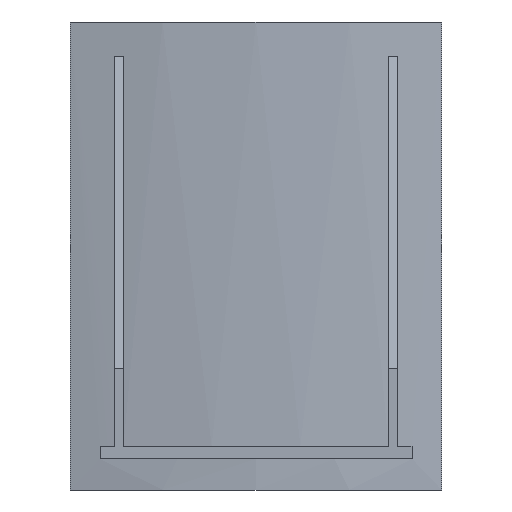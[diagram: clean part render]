
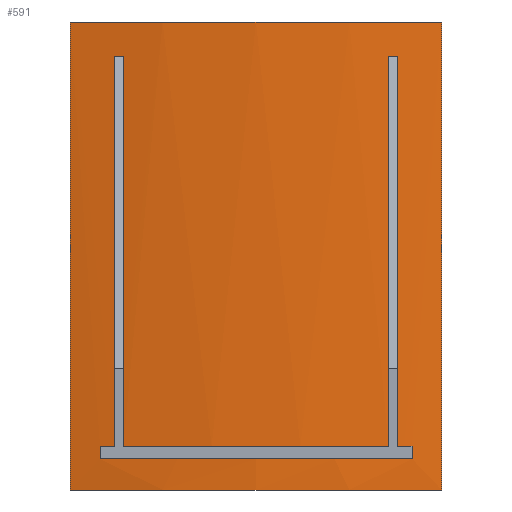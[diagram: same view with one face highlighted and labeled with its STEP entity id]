
A CAD part, left-side view. The second image highlights one B-rep face of the part: STEP entity #591.
In plain terms, the highlighted cylindrical face has radius 1143 mm (diameter 2286 mm), a partial arc.
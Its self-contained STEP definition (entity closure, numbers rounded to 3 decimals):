
#19=FACE_BOUND('',#105,.T.);
#28=CIRCLE('',#643,1143.);
#29=CIRCLE('',#645,1143.);
#30=CIRCLE('',#647,1143.);
#31=CIRCLE('',#651,1143.);
#34=CIRCLE('',#657,1143.);
#35=CIRCLE('',#658,1143.);
#41=CYLINDRICAL_SURFACE('',#656,1143.);
#69=FACE_OUTER_BOUND('',#104,.T.);
#104=EDGE_LOOP('',(#513,#514,#515,#516));
#105=EDGE_LOOP('',(#517,#518,#519,#520,#521,#522,#523,#524,#525,#526));
#162=LINE('',#955,#228);
#164=LINE('',#959,#230);
#169=LINE('',#976,#235);
#170=LINE('',#982,#236);
#171=LINE('',#983,#237);
#172=LINE('',#984,#238);
#228=VECTOR('',#785,10.);
#230=VECTOR('',#789,10.);
#235=VECTOR('',#806,10.);
#236=VECTOR('',#813,10.);
#237=VECTOR('',#814,10.);
#238=VECTOR('',#815,10.);
#269=VERTEX_POINT('',#902);
#270=VERTEX_POINT('',#904);
#277=VERTEX_POINT('',#923);
#278=VERTEX_POINT('',#925);
#281=VERTEX_POINT('',#943);
#282=VERTEX_POINT('',#947);
#283=VERTEX_POINT('',#953);
#284=VERTEX_POINT('',#957);
#289=VERTEX_POINT('',#972);
#290=VERTEX_POINT('',#974);
#291=VERTEX_POINT('',#978);
#292=VERTEX_POINT('',#980);
#351=EDGE_CURVE('',#281,#269,#28,.T.);
#354=EDGE_CURVE('',#277,#282,#29,.T.);
#355=EDGE_CURVE('',#269,#277,#30,.T.);
#357=EDGE_CURVE('',#283,#281,#162,.T.);
#359=EDGE_CURVE('',#282,#284,#164,.T.);
#360=EDGE_CURVE('',#284,#283,#31,.T.);
#367=EDGE_CURVE('',#289,#290,#169,.T.);
#368=EDGE_CURVE('',#291,#289,#34,.T.);
#369=EDGE_CURVE('',#292,#290,#35,.T.);
#370=EDGE_CURVE('',#291,#292,#170,.T.);
#371=EDGE_CURVE('',#270,#269,#171,.T.);
#372=EDGE_CURVE('',#278,#277,#172,.T.);
#513=ORIENTED_EDGE('',*,*,#368,.T.);
#514=ORIENTED_EDGE('',*,*,#367,.T.);
#515=ORIENTED_EDGE('',*,*,#369,.F.);
#516=ORIENTED_EDGE('',*,*,#370,.F.);
#517=ORIENTED_EDGE('',*,*,#359,.T.);
#518=ORIENTED_EDGE('',*,*,#360,.T.);
#519=ORIENTED_EDGE('',*,*,#357,.T.);
#520=ORIENTED_EDGE('',*,*,#351,.T.);
#521=ORIENTED_EDGE('',*,*,#371,.F.);
#522=ORIENTED_EDGE('',*,*,#371,.T.);
#523=ORIENTED_EDGE('',*,*,#355,.T.);
#524=ORIENTED_EDGE('',*,*,#372,.F.);
#525=ORIENTED_EDGE('',*,*,#372,.T.);
#526=ORIENTED_EDGE('',*,*,#354,.T.);
#591=ADVANCED_FACE('',(#69,#19),#41,.T.);
#643=AXIS2_PLACEMENT_3D('',#944,#770,#771);
#645=AXIS2_PLACEMENT_3D('',#949,#776,#777);
#647=AXIS2_PLACEMENT_3D('',#951,#780,#781);
#651=AXIS2_PLACEMENT_3D('',#961,#792,#793);
#656=AXIS2_PLACEMENT_3D('',#977,#807,#808);
#657=AXIS2_PLACEMENT_3D('',#979,#809,#810);
#658=AXIS2_PLACEMENT_3D('',#981,#811,#812);
#770=DIRECTION('center_axis',(0.,0.,1.));
#771=DIRECTION('ref_axis',(-0.978,0.208,0.));
#776=DIRECTION('center_axis',(0.,0.,1.));
#777=DIRECTION('ref_axis',(-0.978,0.208,0.));
#780=DIRECTION('center_axis',(0.,0.,1.));
#781=DIRECTION('ref_axis',(-0.978,0.208,0.));
#785=DIRECTION('',(0.,0.,1.));
#789=DIRECTION('',(0.,0.,-1.));
#792=DIRECTION('center_axis',(0.,0.,-1.));
#793=DIRECTION('ref_axis',(-0.978,0.208,0.));
#806=DIRECTION('',(0.,0.,1.));
#807=DIRECTION('center_axis',(0.,0.,1.));
#808=DIRECTION('ref_axis',(-0.978,0.208,0.));
#809=DIRECTION('center_axis',(0.,0.,1.));
#810=DIRECTION('ref_axis',(-0.978,0.208,0.));
#811=DIRECTION('center_axis',(0.,0.,1.));
#812=DIRECTION('ref_axis',(-0.978,0.208,0.));
#813=DIRECTION('',(0.,0.,1.));
#814=DIRECTION('',(0.,0.,-1.));
#815=DIRECTION('',(0.,0.,-1.));
#902=CARTESIAN_POINT('',(-1130.287,170.,56.));
#904=CARTESIAN_POINT('',(-1130.287,170.,556.));
#923=CARTESIAN_POINT('',(-1130.287,-170.,56.));
#925=CARTESIAN_POINT('',(-1130.287,-170.,556.));
#943=CARTESIAN_POINT('',(-1125.366,200.,56.));
#944=CARTESIAN_POINT('Origin',(0.,0.,56.));
#947=CARTESIAN_POINT('',(-1125.366,-200.,56.));
#949=CARTESIAN_POINT('Origin',(0.,0.,56.));
#951=CARTESIAN_POINT('Origin',(0.,0.,56.));
#953=CARTESIAN_POINT('',(-1125.366,200.,40.));
#955=CARTESIAN_POINT('',(-1125.366,200.,0.));
#957=CARTESIAN_POINT('',(-1125.366,-200.,40.));
#959=CARTESIAN_POINT('',(-1125.366,-200.,0.));
#961=CARTESIAN_POINT('Origin',(0.,0.,40.));
#972=CARTESIAN_POINT('',(-1117.896,-238.24,0.));
#974=CARTESIAN_POINT('',(-1117.896,-238.24,600.));
#976=CARTESIAN_POINT('',(-1117.896,-238.24,0.));
#977=CARTESIAN_POINT('Origin',(0.,0.,0.));
#978=CARTESIAN_POINT('',(-1117.896,238.24,0.));
#979=CARTESIAN_POINT('Origin',(0.,0.,0.));
#980=CARTESIAN_POINT('',(-1117.896,238.24,600.));
#981=CARTESIAN_POINT('Origin',(0.,0.,600.));
#982=CARTESIAN_POINT('',(-1117.896,238.24,0.));
#983=CARTESIAN_POINT('',(-1130.287,170.,0.));
#984=CARTESIAN_POINT('',(-1130.287,-170.,0.));
